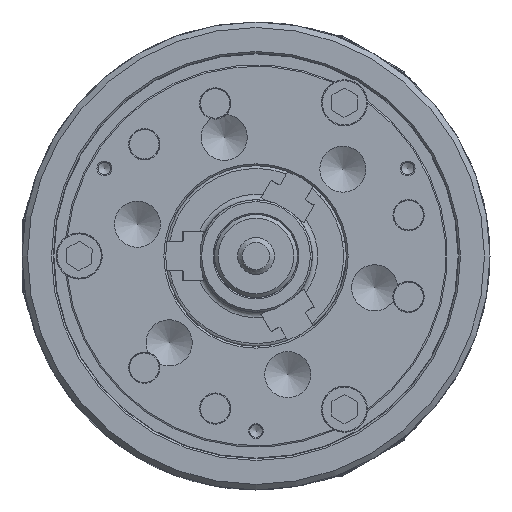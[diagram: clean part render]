
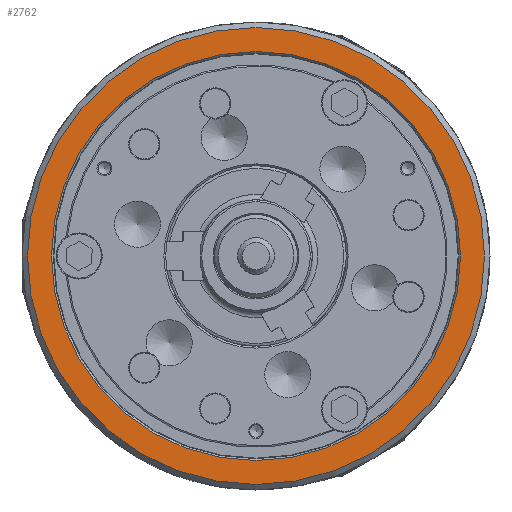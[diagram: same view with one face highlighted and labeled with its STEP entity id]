
A CAD part, left-side view. The second image highlights one B-rep face of the part: STEP entity #2762.
In plain terms, the highlighted planar face has unit normal (-1, 0, 0).
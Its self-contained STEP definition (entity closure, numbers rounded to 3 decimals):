
#713 = DIRECTION ( 'NONE',  ( -1., 0., 0. ) ) ;
#2762 = ADVANCED_FACE ( 'NONE', ( #4619, #69818 ), #59339, .F. ) ;
#4619 = FACE_BOUND ( 'NONE', #65248, .T. ) ;
#9339 = ORIENTED_EDGE ( 'NONE', *, *, #38755, .F. ) ;
#11224 = AXIS2_PLACEMENT_3D ( 'NONE', #42445, #15191, #69166 ) ;
#15094 = ORIENTED_EDGE ( 'NONE', *, *, #51833, .T. ) ;
#15191 = DIRECTION ( 'NONE',  ( -1., 0., 0. ) ) ;
#21498 = DIRECTION ( 'NONE',  ( 1., 0., 0. ) ) ;
#32435 = CIRCLE ( 'NONE', #11224, 111. ) ;
#33428 = CARTESIAN_POINT ( 'NONE',  ( -89., 0., 0. ) ) ;
#37053 = VERTEX_POINT ( 'NONE', #46661 ) ;
#38755 = EDGE_CURVE ( 'NONE', #37053, #37053, #32435, .T. ) ;
#39619 = AXIS2_PLACEMENT_3D ( 'NONE', #33428, #713, #60337 ) ;
#42445 = CARTESIAN_POINT ( 'NONE',  ( -89., 0., 0. ) ) ;
#46661 = CARTESIAN_POINT ( 'NONE',  ( -89., 0., 111. ) ) ;
#48528 = EDGE_LOOP ( 'NONE', ( #15094 ) ) ;
#51833 = EDGE_CURVE ( 'NONE', #64073, #64073, #67871, .T. ) ;
#52588 = CARTESIAN_POINT ( 'NONE',  ( -89., 0., 124. ) ) ;
#53910 = CARTESIAN_POINT ( 'NONE',  ( -89., 124., 0. ) ) ;
#59339 = PLANE ( 'NONE',  #65399 ) ;
#60337 = DIRECTION ( 'NONE',  ( 0., 0., 1. ) ) ;
#64073 = VERTEX_POINT ( 'NONE', #52588 ) ;
#64774 = DIRECTION ( 'NONE',  ( 0., 0., -1. ) ) ;
#65248 = EDGE_LOOP ( 'NONE', ( #9339 ) ) ;
#65399 = AXIS2_PLACEMENT_3D ( 'NONE', #53910, #21498, #64774 ) ;
#67871 = CIRCLE ( 'NONE', #39619, 124. ) ;
#69166 = DIRECTION ( 'NONE',  ( 0., 0., 1. ) ) ;
#69818 = FACE_OUTER_BOUND ( 'NONE', #48528, .T. ) ;
